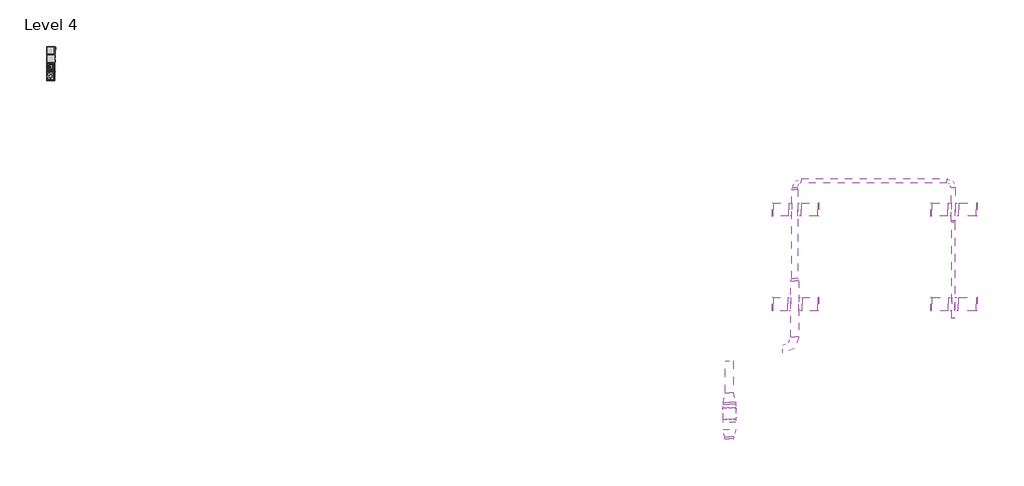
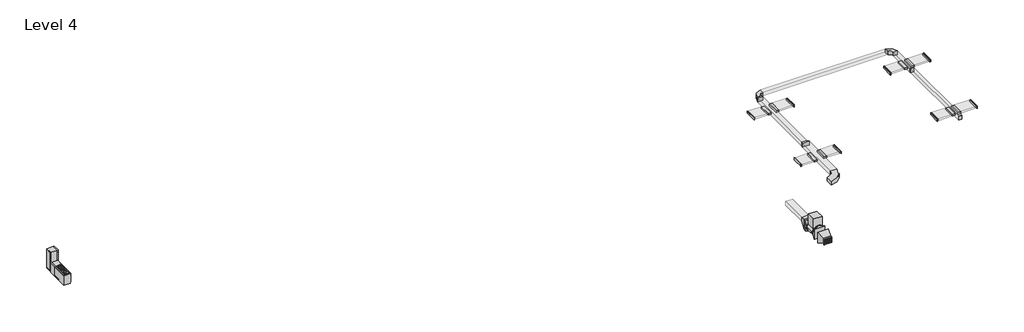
# One storey: 19 duct fittings, 16 duct segments, 9 air terminals, 5 proxies, 1 flow terminal, 1 furniture element.
"""IFC4 building model written with IfcOpenShell, lengths in millimetres."""

from ifc_helpers import new_model, si_unit, frame, origin, place, context, project, spatial, polyline, outline, extrude, transform, mapped, element, save
from components import air_terminal_f0eebf6e, supply_diffuser_sidewall_standard_1200x300_380ab6ba, supply_diffuser_sidewall_standard_1200x300_04a8d683, mechanical_equipment_23de367c, m_cook_top_4_unit2_0615_x_500mm_249f3515, m_dishwasher_610_x_610_x_875mm_54ecfc4c, m_kitchenette_medium_1372mm_e05c6bec, m_refrigerator_600_x_660mm_a466bf94, rectangular_elbow_radius_1_5_w_f0b64ed6, rectangular_elbow_radius_1_5_w_b3692870, rectangular_endcap_standard_c932a40a, rectangular_takeoff_standard_90e0e4da, rectangular_takeoff_standard_b59f4a52, rectangular_transition_angle_45_degree_6ff39442, rectangular_transition_angle_45_degree_50548305, rectangular_transition_angle_45_degree_87f8d392, rectangular_transition_angle_45_degree_80c2ec11, rectangular_transition_angle_45_degree_a284f36b, rectangular_to_round_transition_angle_45_degree_ce135f2d, m_sink_kitchen_island_450_x_450mm_f969cf2d, m_counter_top_w_sink_hole_600mm_depth_0a237b63

model = new_model("IFC4")

# Units and contexts
model_context = context("Model", 3, world=origin())
ifc_project = project(units=[si_unit("LENGTHUNIT", "METRE", prefix="MILLI")], contexts=[model_context])

# Site, building, storey
site = spatial("IfcSite", under=ifc_project)
building = spatial("IfcBuilding", under=site)
storey = spatial("IfcBuildingStorey", under=building, Name="Level 4", Elevation=16459.2)

# Air terminals
placement = place(None, origin())
air_terminal_shape = air_terminal_f0eebf6e(model_context)
element("IfcAirTerminal", 1, ObjectType="Louvered Supply Grille : Louvered Supply Grille", at=placement, inside=storey, context=model_context, shape_type="MappedRepresentation", body=[
    mapped(air_terminal_shape, transform((-15999.526693, -6762.9012891, 18959.2), x_axis=(1.0, 0.0, 0.0), y_axis=(0.0, 0.0, 1.0), z_axis=(0.0, -1.0, 0.0))),
])
supply_diffuser_sidewall_standard_1200x300_shape = supply_diffuser_sidewall_standard_1200x300_380ab6ba(model_context)
element("IfcAirTerminal", 2, ObjectType="Supply Diffuser - Sidewall : Standard 1200x300", at=placement, inside=storey, context=model_context, shape_type="MappedRepresentation", body=[
    mapped(supply_diffuser_sidewall_standard_1200x300_shape, transform((-12778.3406525, 10472.2005931, 18959.2), x_axis=(0.0, -1.0, 0.0), y_axis=(1.0, 0.0, 0.0), z_axis=(0.0, 0.0, 1.0))),
])
element("IfcAirTerminal", 3, ObjectType="Supply Diffuser - Sidewall : Standard 1200x300", at=placement, inside=storey, context=model_context, shape_type="MappedRepresentation", body=[
    mapped(supply_diffuser_sidewall_standard_1200x300_shape, transform((-9291.9814476, 3366.3112109, 18959.2), x_axis=(0.0, 1.0, 0.0), y_axis=(-1.0, 0.0, 0.0), z_axis=(0.0, 0.0, 1.0))),
])
element("IfcAirTerminal", 4, ObjectType="Supply Diffuser - Sidewall : Standard 1200x300", at=placement, inside=storey, context=model_context, shape_type="MappedRepresentation", body=[
    mapped(supply_diffuser_sidewall_standard_1200x300_shape, transform((-862.1315623, 10472.2005931, 18959.2), x_axis=(0.0, -1.0, 0.0), y_axis=(1.0, 0.0, 0.0), z_axis=(0.0, 0.0, 1.0))),
])
element("IfcAirTerminal", 5, ObjectType="Supply Diffuser - Sidewall : Standard 1200x300", at=placement, inside=storey, context=model_context, shape_type="MappedRepresentation", body=[
    mapped(supply_diffuser_sidewall_standard_1200x300_shape, transform((2624.2276426, 3366.3112109, 18959.2), x_axis=(0.0, 1.0, 0.0), y_axis=(-1.0, 0.0, 0.0), z_axis=(0.0, 0.0, 1.0))),
])
supply_diffuser_sidewall_standard_1200x300_2_shape = supply_diffuser_sidewall_standard_1200x300_04a8d683(model_context)
element("IfcAirTerminal", 6, ObjectType="Supply Diffuser - Sidewall : Standard 1200x300", at=placement, inside=storey, context=model_context, shape_type="MappedRepresentation", body=[
    mapped(supply_diffuser_sidewall_standard_1200x300_2_shape, transform((-12778.3406525, 3366.3112109, 18959.2), x_axis=(0.0, 1.0, 0.0), y_axis=(-1.0, 0.0, 0.0), z_axis=(0.0, 0.0, 1.0))),
])
element("IfcAirTerminal", 7, ObjectType="Supply Diffuser - Sidewall : Standard 1200x300", at=placement, inside=storey, context=model_context, shape_type="MappedRepresentation", body=[
    mapped(supply_diffuser_sidewall_standard_1200x300_2_shape, transform((-9291.9814476, 10472.2005931, 18959.2), x_axis=(0.0, -1.0, 0.0), y_axis=(1.0, 0.0, 0.0), z_axis=(0.0, 0.0, 1.0))),
])
element("IfcAirTerminal", 8, ObjectType="Supply Diffuser - Sidewall : Standard 1200x300", at=placement, inside=storey, context=model_context, shape_type="MappedRepresentation", body=[
    mapped(supply_diffuser_sidewall_standard_1200x300_2_shape, transform((-862.1315623, 3366.3112109, 18959.2), x_axis=(0.0, 1.0, 0.0), y_axis=(-1.0, 0.0, 0.0), z_axis=(0.0, 0.0, 1.0))),
])
element("IfcAirTerminal", 9, ObjectType="Supply Diffuser - Sidewall : Standard 1200x300", at=placement, inside=storey, context=model_context, shape_type="MappedRepresentation", body=[
    mapped(supply_diffuser_sidewall_standard_1200x300_2_shape, transform((2624.2276426, 10472.2005931, 18959.2), x_axis=(0.0, -1.0, 0.0), y_axis=(1.0, 0.0, 0.0), z_axis=(0.0, 0.0, 1.0))),
])

# Proxies
mechanical_equipment_shape = mechanical_equipment_23de367c(model_context)
element("IfcBuildingElementProxy", 10, Name="AFB-S_Horizontal_Ceiling_Mount : 36_AFB-S_HOR_CEILING", ObjectType="AFB-S_Horizontal_Ceiling_Mount : 36_AFB-S_HOR_CEILING", at=placement, inside=storey, context=model_context, shape_type="MappedRepresentation", body=[
    mapped(mechanical_equipment_shape, transform((-16000.380227, -4845.4259607, 18959.2), x_axis=(1.0, 0.0, 0.0), y_axis=(0.0, 1.0, 0.0), z_axis=(0.0, 0.0, 1.0))),
])
m_cook_top_4_unit2_0615_x_500mm_shape = m_cook_top_4_unit2_0615_x_500mm_249f3515(model_context)
element("IfcBuildingElementProxy", 11, Name="M_Cook Top-4 Unit2 : 0615 x 500mm", ObjectType="M_Cook Top-4 Unit2 : 0615 x 500mm", at=placement, inside=storey, context=model_context, shape_type="MappedRepresentation", body=[
    mapped(m_cook_top_4_unit2_0615_x_500mm_shape, transform((-66929.8023623, 20483.7632774, 16459.2), x_axis=(0.0, 1.0, 0.0), y_axis=(-1.0, 0.0, 0.0), z_axis=(0.0, 0.0, 1.0))),
])
m_dishwasher_610_x_610_x_875mm_shape = m_dishwasher_610_x_610_x_875mm_54ecfc4c(model_context)
element("IfcBuildingElementProxy", 12, Name="M_Dishwasher : 610 x 610 x 875mm", ObjectType="M_Dishwasher : 610 x 610 x 875mm", at=placement, inside=storey, context=model_context, shape_type="MappedRepresentation", body=[
    mapped(m_dishwasher_610_x_610_x_875mm_shape, transform((-66663.1527976, 21433.2458089, 16459.2), x_axis=(0.0, 1.0, 0.0), y_axis=(-1.0, 0.0, 0.0), z_axis=(0.0, 0.0, 1.0))),
])
m_kitchenette_medium_1372mm_shape = m_kitchenette_medium_1372mm_e05c6bec(model_context)
element("IfcBuildingElementProxy", 13, Name="M_Kitchenette - Medium : 1372mm", ObjectType="M_Kitchenette - Medium : 1372mm", at=placement, inside=storey, context=model_context, shape_type="MappedRepresentation", body=[
    mapped(m_kitchenette_medium_1372mm_shape, transform((-67234.8023623, 20808.0255725, 16459.2), x_axis=(0.0, 1.0, 0.0), y_axis=(-1.0, 0.0, 0.0), z_axis=(0.0, 0.0, 1.0))),
])
m_refrigerator_600_x_660mm_shape = m_refrigerator_600_x_660mm_a466bf94(model_context)
element("IfcBuildingElementProxy", 14, Name="M_Refrigerator : 600 x 660mm", ObjectType="M_Refrigerator : 600 x 660mm", at=placement, inside=storey, context=model_context, shape_type="MappedRepresentation", body=[
    mapped(m_refrigerator_600_x_660mm_shape, transform((-66938.5872722, 22474.56442, 16459.2), x_axis=(0.0, 1.0, 0.0), y_axis=(-1.0, 0.0, 0.0), z_axis=(0.0, 0.0, 1.0))),
])

# Duct fittings
rectangular_elbow_radius_1_5_w_shape = rectangular_elbow_radius_1_5_w_f0b64ed6(model_context)
element("IfcDuctFitting", 15, ObjectType="Rectangular Elbow - Radius : 1.5 W", at=placement, inside=storey, context=model_context, shape_type="MappedRepresentation", body=[
    mapped(rectangular_elbow_radius_1_5_w_shape, transform((-11075.1610501, -7.2046045, 18959.2), x_axis=(1.0, 0.0, 0.0), y_axis=(0.0, 1.0, 0.0), z_axis=(0.0, 0.0, 1.0))),
])
rectangular_elbow_radius_1_5_w_2_shape = rectangular_elbow_radius_1_5_w_b3692870(model_context)
element("IfcDuctFitting", 16, ObjectType="Rectangular Elbow - Radius : 1.5 W", at=placement, inside=storey, context=model_context, shape_type="MappedRepresentation", body=[
    mapped(rectangular_elbow_radius_1_5_w_2_shape, transform((815.9580401, 12626.3740393, 18959.2), x_axis=(0.0, 1.0, 0.0), y_axis=(-1.0, 0.0, 0.0), z_axis=(0.0, 0.0, 1.0))),
])
element("IfcDuctFitting", 17, ObjectType="Rectangular Elbow - Radius : 1.5 W", at=placement, inside=storey, context=model_context, shape_type="MappedRepresentation", body=[
    mapped(rectangular_elbow_radius_1_5_w_2_shape, transform((-11075.1610501, 12626.3740393, 18959.2), x_axis=(-1.0, 0.0, 0.0), y_axis=(0.0, -1.0, 0.0), z_axis=(0.0, 0.0, 1.0))),
])
rectangular_endcap_standard_shape = rectangular_endcap_standard_c932a40a(model_context)
element("IfcDuctFitting", 18, ObjectType="Rectangular Endcap : Standard", at=placement, inside=storey, context=model_context, shape_type="MappedRepresentation", body=[
    mapped(rectangular_endcap_standard_shape, transform((815.9580401, 2326.3740393, 18959.2), x_axis=(0.0, -1.0, 0.0), y_axis=(1.0, 0.0, 0.0), z_axis=(0.0, 0.0, 1.0))),
])
rectangular_takeoff_standard_shape = rectangular_takeoff_standard_90e0e4da(model_context)
element("IfcDuctFitting", 19, ObjectType="Rectangular Takeoff : Standard", at=placement, inside=storey, context=model_context, shape_type="MappedRepresentation", body=[
    mapped(rectangular_takeoff_standard_shape, transform((940.9580401, 3366.3112109, 18959.2), x_axis=(1.0, 0.0, 0.0), y_axis=(0.0, -1.0, 0.0), z_axis=(0.0, 0.0, -1.0))),
])
element("IfcDuctFitting", 20, ObjectType="Rectangular Takeoff : Standard", at=placement, inside=storey, context=model_context, shape_type="MappedRepresentation", body=[
    mapped(rectangular_takeoff_standard_shape, transform((978.4580401, 10472.2005931, 18959.2), x_axis=(1.0, 0.0, 0.0), y_axis=(0.0, -1.0, 0.0), z_axis=(0.0, 0.0, -1.0))),
])
element("IfcDuctFitting", 21, ObjectType="Rectangular Takeoff : Standard", at=placement, inside=storey, context=model_context, shape_type="MappedRepresentation", body=[
    mapped(rectangular_takeoff_standard_shape, transform((-11300.1610501, 10472.2005931, 18959.2), x_axis=(-1.0, 0.0, 0.0), y_axis=(0.0, 1.0, 0.0), z_axis=(0.0, 0.0, -1.0))),
])
element("IfcDuctFitting", 22, ObjectType="Rectangular Takeoff : Standard", at=placement, inside=storey, context=model_context, shape_type="MappedRepresentation", body=[
    mapped(rectangular_takeoff_standard_shape, transform((-11375.1610501, 3366.3112109, 18959.2), x_axis=(-1.0, 0.0, 0.0), y_axis=(0.0, 1.0, 0.0), z_axis=(0.0, 0.0, -1.0))),
])
rectangular_takeoff_standard_2_shape = rectangular_takeoff_standard_b59f4a52(model_context)
element("IfcDuctFitting", 23, ObjectType="Rectangular Takeoff : Standard", at=placement, inside=storey, context=model_context, shape_type="MappedRepresentation", body=[
    mapped(rectangular_takeoff_standard_2_shape, transform((690.9580401, 3366.3112109, 18959.2), x_axis=(-1.0, 0.0, 0.0), y_axis=(0.0, 1.0, 0.0), z_axis=(0.0, 0.0, -1.0))),
])
element("IfcDuctFitting", 24, ObjectType="Rectangular Takeoff : Standard", at=placement, inside=storey, context=model_context, shape_type="MappedRepresentation", body=[
    mapped(rectangular_takeoff_standard_2_shape, transform((653.4580401, 10472.2005931, 18959.2), x_axis=(-1.0, 0.0, 0.0), y_axis=(0.0, 1.0, 0.0), z_axis=(0.0, 0.0, -1.0))),
])
element("IfcDuctFitting", 25, ObjectType="Rectangular Takeoff : Standard", at=placement, inside=storey, context=model_context, shape_type="MappedRepresentation", body=[
    mapped(rectangular_takeoff_standard_2_shape, transform((-10850.1610501, 10472.2005931, 18959.2), x_axis=(1.0, 0.0, 0.0), y_axis=(0.0, -1.0, 0.0), z_axis=(0.0, 0.0, -1.0))),
])
element("IfcDuctFitting", 26, ObjectType="Rectangular Takeoff : Standard", at=placement, inside=storey, context=model_context, shape_type="MappedRepresentation", body=[
    mapped(rectangular_takeoff_standard_2_shape, transform((-10775.1610501, 3366.3112109, 18959.2), x_axis=(1.0, 0.0, 0.0), y_axis=(0.0, -1.0, 0.0), z_axis=(0.0, 0.0, -1.0))),
])
rectangular_transition_angle_45_degree_shape = rectangular_transition_angle_45_degree_6ff39442(model_context)
element("IfcDuctFitting", 27, ObjectType="Rectangular Transition - Angle : 45 Degree", at=placement, inside=storey, context=model_context, shape_type="MappedRepresentation", body=[
    mapped(rectangular_transition_angle_45_degree_shape, transform((-11075.1610501, 5300.8640823, 18959.2), x_axis=(0.0, -1.0, 0.0), y_axis=(1.0, 0.0, 0.0), z_axis=(0.0, 0.0, 1.0))),
])
rectangular_transition_angle_45_degree_2_shape = rectangular_transition_angle_45_degree_50548305(model_context)
element("IfcDuctFitting", 28, ObjectType="Rectangular Transition - Angle : 45 Degree", at=placement, inside=storey, context=model_context, shape_type="MappedRepresentation", body=[
    mapped(rectangular_transition_angle_45_degree_2_shape, transform((-11075.1610501, 11987.9856917, 18959.2), x_axis=(0.0, 1.0, 0.0), y_axis=(-1.0, 0.0, 0.0), z_axis=(0.0, 0.0, 1.0))),
])
rectangular_transition_angle_45_degree_3_shape = rectangular_transition_angle_45_degree_87f8d392(model_context)
element("IfcDuctFitting", 29, ObjectType="Rectangular Transition - Angle : 45 Degree", at=placement, inside=storey, context=model_context, shape_type="MappedRepresentation", body=[
    mapped(rectangular_transition_angle_45_degree_3_shape, transform((815.9580401, 9642.0490393, 18959.2), x_axis=(0.0, -1.0, 0.0), y_axis=(1.0, 0.0, 0.0), z_axis=(0.0, 0.0, 1.0))),
])
rectangular_transition_angle_45_degree_4_shape = rectangular_transition_angle_45_degree_80c2ec11(model_context)
element("IfcDuctFitting", 30, ObjectType="Rectangular Transition - Angle : 45 Degree", at=placement, inside=storey, context=model_context, shape_type="MappedRepresentation", body=[
    mapped(rectangular_transition_angle_45_degree_4_shape, transform((-15999.526693, -6616.7174195, 18959.2), x_axis=(0.0, 1.0, 0.0), y_axis=(-1.0, 0.0, 0.0), z_axis=(0.0, 0.0, 1.0))),
])
rectangular_transition_angle_45_degree_5_shape = rectangular_transition_angle_45_degree_a284f36b(model_context)
element("IfcDuctFitting", 31, ObjectType="Rectangular Transition - Angle : 45 Degree", at=placement, inside=storey, context=model_context, shape_type="MappedRepresentation", body=[
    mapped(rectangular_transition_angle_45_degree_5_shape, transform((-15990.082755, -3302.0723101, 18959.2), x_axis=(0.0, -1.0, 0.0), y_axis=(1.0, 0.0, 0.0), z_axis=(0.0, 0.0, 1.0))),
])
rectangular_to_round_transition_angle_45_degree_shape = rectangular_to_round_transition_angle_45_degree_ce135f2d(model_context)
element("IfcDuctFitting", 32, ObjectType="Rectangular to Round Transition - Angle : 45 Degree", at=placement, inside=storey, context=model_context, shape_type="MappedRepresentation", body=[
    mapped(rectangular_to_round_transition_angle_45_degree_shape, transform((-15990.082755, -5512.1759607, 18959.2), x_axis=(0.0, 1.0, 0.0), y_axis=(-1.0, 0.0, 0.0), z_axis=(0.0, 0.0, 1.0))),
])
element("IfcDuctFitting", 33, ObjectType="Rectangular to Round Transition - Angle : 45 Degree", at=placement, inside=storey, context=model_context, shape_type="MappedRepresentation", body=[
    mapped(rectangular_to_round_transition_angle_45_degree_shape, transform((-15990.082755, -4178.6759607, 18959.2), x_axis=(0.0, -1.0, 0.0), y_axis=(1.0, 0.0, 0.0), z_axis=(0.0, 0.0, 1.0))),
])

# Duct segments
element("IfcDuctSegment", 34, ObjectType="Radius Elbows / Taps", at=placement, inside=storey, context=model_context, shape_type="SweptSolid", body=[
    extrude(outline(polyline([(-16459.982755, -4014.0238897), (-15520.182755, -4014.0238897), (-15520.182755, -4178.6759607), (-16459.982755, -4178.6759607), (-16459.982755, -4014.0238897)])), frame((0.0, 0.0, 18489.3), z_axis=(0.0, 0.0, 1.0), x_axis=(1.0, 0.0, 0.0)), (0.0, 0.0, 1.0), 939.8),
])
element("IfcDuctSegment", 35, ObjectType="Radius Elbows / Taps", at=placement, inside=storey, context=model_context, shape_type="SweptSolid", body=[
    extrude(outline(polyline([(-10775.1610501, 892.7953955), (-11375.1610501, 892.7953955), (-11375.1610501, 5119.7980651), (-10775.1610501, 5119.7980651), (-10775.1610501, 892.7953955)])), frame((0.0, 0.0, 18784.2), z_axis=(0.0, 0.0, 1.0), x_axis=(1.0, 0.0, 0.0)), (0.0, 0.0, 1.0), 350.0),
])
element("IfcDuctSegment", 36, ObjectType="Radius Elbows / Taps", at=placement, inside=storey, context=model_context, shape_type="SweptSolid", body=[
    extrude(outline(polyline([(328.4580401, 12788.8740393), (328.4580401, 12463.8740393), (-10587.6610501, 12463.8740393), (-10587.6610501, 12788.8740393), (328.4580401, 12788.8740393)])), frame((0.0, 0.0, 18784.2), z_axis=(0.0, 0.0, 1.0), x_axis=(1.0, 0.0, 0.0)), (0.0, 0.0, 1.0), 350.0),
])
element("IfcDuctSegment", 37, ObjectType="Radius Elbows / Taps", at=placement, inside=storey, context=model_context, shape_type="SweptSolid", body=[
    extrude(outline(polyline([(-11300.1610501, 11987.9856917), (-10850.1610501, 11987.9856917), (-10850.1610501, 5300.8640823), (-11300.1610501, 5300.8640823), (-11300.1610501, 11987.9856917)])), frame((0.0, 0.0, 18784.2), z_axis=(0.0, 0.0, 1.0), x_axis=(1.0, 0.0, 0.0)), (0.0, 0.0, 1.0), 350.0),
])
element("IfcDuctSegment", 38, ObjectType="Radius Elbows / Taps", at=placement, inside=storey, context=model_context, shape_type="SweptSolid", body=[
    extrude(outline(polyline([(-15690.082755, -3302.0723101), (-16290.082755, -3302.0723101), (-16290.082755, -907.2046045), (-15690.082755, -907.2046045), (-15690.082755, -3302.0723101)])), frame((0.0, 0.0, 18784.2), z_axis=(0.0, 0.0, 1.0), x_axis=(1.0, 0.0, 0.0)), (0.0, 0.0, 1.0), 350.0),
])
element("IfcDuctSegment", 39, ObjectType="Radius Elbows / Taps", at=placement, inside=storey, context=model_context, shape_type="SweptSolid", body=[
    extrude(outline(polyline([(690.9580401, 9551.5160307), (940.9580401, 9551.5160307), (940.9580401, 2326.3740393), (690.9580401, 2326.3740393), (690.9580401, 9551.5160307)])), frame((0.0, 0.0, 18784.2), z_axis=(0.0, 0.0, 1.0), x_axis=(1.0, 0.0, 0.0)), (0.0, 0.0, 1.0), 350.0),
])
element("IfcDuctSegment", 40, ObjectType="Radius Elbows / Taps", at=placement, inside=storey, context=model_context, shape_type="SweptSolid", body=[
    extrude(outline(polyline([(653.4580401, 12138.8740393), (978.4580401, 12138.8740393), (978.4580401, 9642.0490393), (653.4580401, 9642.0490393), (653.4580401, 12138.8740393)])), frame((0.0, 0.0, 18784.2), z_axis=(0.0, 0.0, 1.0), x_axis=(1.0, 0.0, 0.0)), (0.0, 0.0, 1.0), 350.0),
])
element("IfcDuctSegment", 41, ObjectType="Radius Elbows / Taps", at=placement, inside=storey, context=model_context, shape_type="SweptSolid", body=[
    extrude(outline(polyline([(-15671.751693, -6737.5012891), (-16327.301693, -6737.5012891), (-16327.301693, -6616.7174195), (-15671.751693, -6616.7174195), (-15671.751693, -6737.5012891)])), frame((0.0, 0.0, 18731.425), z_axis=(0.0, 0.0, 1.0), x_axis=(1.0, 0.0, 0.0)), (0.0, 0.0, 1.0), 455.55),
])
element("IfcDuctSegment", 42, ObjectType="Radius Elbows / Taps", at=placement, inside=storey, context=model_context, shape_type="SweptSolid", body=[
    extrude(outline(polyline([(2548.0276426, 3866.3112109), (2548.0276426, 2866.3112109), (1190.9580401, 2866.3112109), (1190.9580401, 3866.3112109), (2548.0276426, 3866.3112109)])), frame((0.0, 0.0, 18884.2), z_axis=(0.0, 0.0, 1.0), x_axis=(1.0, 0.0, 0.0)), (0.0, 0.0, 1.0), 150.0),
])
element("IfcDuctSegment", 43, ObjectType="Radius Elbows / Taps", at=placement, inside=storey, context=model_context, shape_type="SweptSolid", body=[
    extrude(outline(polyline([(-785.9315623, 2866.3112109), (-785.9315623, 3866.3112109), (440.9580401, 3866.3112109), (440.9580401, 2866.3112109), (-785.9315623, 2866.3112109)])), frame((0.0, 0.0, 18884.2), z_axis=(0.0, 0.0, 1.0), x_axis=(1.0, 0.0, 0.0)), (0.0, 0.0, 1.0), 150.0),
])
element("IfcDuctSegment", 44, ObjectType="Radius Elbows / Taps", at=placement, inside=storey, context=model_context, shape_type="SweptSolid", body=[
    extrude(outline(polyline([(2548.0276426, 10972.2005931), (2548.0276426, 9972.2005931), (1228.4580401, 9972.2005931), (1228.4580401, 10972.2005931), (2548.0276426, 10972.2005931)])), frame((0.0, 0.0, 18884.2), z_axis=(0.0, 0.0, 1.0), x_axis=(1.0, 0.0, 0.0)), (0.0, 0.0, 1.0), 150.0),
])
element("IfcDuctSegment", 45, ObjectType="Radius Elbows / Taps", at=placement, inside=storey, context=model_context, shape_type="SweptSolid", body=[
    extrude(outline(polyline([(-785.9315623, 9972.2005931), (-785.9315623, 10972.2005931), (403.4580401, 10972.2005931), (403.4580401, 9972.2005931), (-785.9315623, 9972.2005931)])), frame((0.0, 0.0, 18884.2), z_axis=(0.0, 0.0, 1.0), x_axis=(1.0, 0.0, 0.0)), (0.0, 0.0, 1.0), 150.0),
])
element("IfcDuctSegment", 46, ObjectType="Radius Elbows / Taps", at=placement, inside=storey, context=model_context, shape_type="SweptSolid", body=[
    extrude(outline(polyline([(-9368.1814476, 10972.2005931), (-9368.1814476, 9972.2005931), (-10600.1610501, 9972.2005931), (-10600.1610501, 10972.2005931), (-9368.1814476, 10972.2005931)])), frame((0.0, 0.0, 18884.2), z_axis=(0.0, 0.0, 1.0), x_axis=(1.0, 0.0, 0.0)), (0.0, 0.0, 1.0), 150.0),
])
element("IfcDuctSegment", 47, ObjectType="Radius Elbows / Taps", at=placement, inside=storey, context=model_context, shape_type="SweptSolid", body=[
    extrude(outline(polyline([(-12702.1406525, 9972.2005931), (-12702.1406525, 10972.2005931), (-11550.1610501, 10972.2005931), (-11550.1610501, 9972.2005931), (-12702.1406525, 9972.2005931)])), frame((0.0, 0.0, 18884.2), z_axis=(0.0, 0.0, 1.0), x_axis=(1.0, 0.0, 0.0)), (0.0, 0.0, 1.0), 150.0),
])
element("IfcDuctSegment", 48, ObjectType="Radius Elbows / Taps", at=placement, inside=storey, context=model_context, shape_type="SweptSolid", body=[
    extrude(outline(polyline([(-9368.1814476, 3866.3112109), (-9368.1814476, 2866.3112109), (-10525.1610501, 2866.3112109), (-10525.1610501, 3866.3112109), (-9368.1814476, 3866.3112109)])), frame((0.0, 0.0, 18884.2), z_axis=(0.0, 0.0, 1.0), x_axis=(1.0, 0.0, 0.0)), (0.0, 0.0, 1.0), 150.0),
])
element("IfcDuctSegment", 49, ObjectType="Radius Elbows / Taps", at=placement, inside=storey, context=model_context, shape_type="SweptSolid", body=[
    extrude(outline(polyline([(-12702.1406525, 2866.3112109), (-12702.1406525, 3866.3112109), (-11625.1610501, 3866.3112109), (-11625.1610501, 2866.3112109), (-12702.1406525, 2866.3112109)])), frame((0.0, 0.0, 18884.2), z_axis=(0.0, 0.0, 1.0), x_axis=(1.0, 0.0, 0.0)), (0.0, 0.0, 1.0), 150.0),
])

# Flow terminal
m_sink_kitchen_island_450_x_450mm_shape = m_sink_kitchen_island_450_x_450mm_f969cf2d(model_context)
element("IfcFlowTerminal", 50, ObjectType="M_Sink Kitchen-Island : 450 x 450mm", at=placement, inside=storey, context=model_context, shape_type="MappedRepresentation", body=[
    mapped(m_sink_kitchen_island_450_x_450mm_shape, transform((-66927.4569612, 21154.0740368, 16459.2), x_axis=(0.0, 1.0, 0.0), y_axis=(-1.0, 0.0, 0.0), z_axis=(0.0, 0.0, 1.0))),
])

# Furniture
m_counter_top_w_sink_hole_600mm_depth_shape = m_counter_top_w_sink_hole_600mm_depth_0a237b63(model_context)
element("IfcFurniture", 51, ObjectType="M_Counter Top w Sink Hole : 600mm Depth", at=placement, inside=storey, context=model_context, shape_type="MappedRepresentation", body=[
    mapped(m_counter_top_w_sink_hole_600mm_depth_shape, transform((-67234.8023623, 21341.2255725, 16459.2), x_axis=(0.0, 1.0, 0.0), y_axis=(-1.0, 0.0, 0.0), z_axis=(0.0, 0.0, 1.0))),
])

save(model, "model.ifc")
